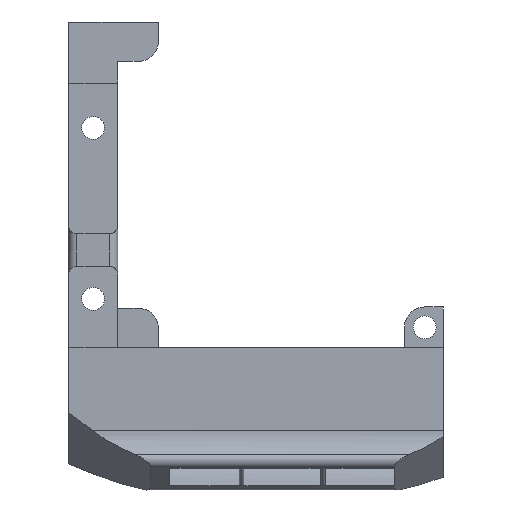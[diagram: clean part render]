
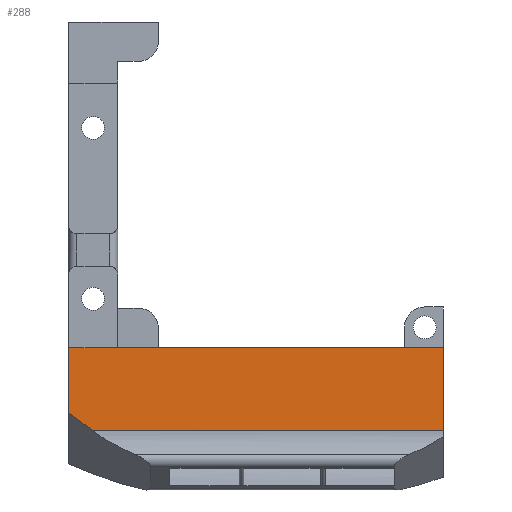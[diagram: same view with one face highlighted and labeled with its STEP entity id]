
A CAD part, left-side view. The second image highlights one B-rep face of the part: STEP entity #288.
In plain terms, the highlighted planar face has unit normal (-1, 0, 0).
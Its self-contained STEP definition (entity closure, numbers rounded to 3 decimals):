
#177=CARTESIAN_POINT('Vertex',(20.8,60.223,-35.015)) ;
#180=CARTESIAN_POINT('Line Origine',(20.8,60.223,-31.033)) ;
#184=CARTESIAN_POINT('Vertex',(20.8,60.223,-27.05)) ;
#242=CARTESIAN_POINT('Axis2P3D Location',(20.8,60.223,-27.05)) ;
#247=CARTESIAN_POINT('Line Origine',(20.8,35.724,-37.275)) ;
#251=CARTESIAN_POINT('Vertex',(20.8,57.224,-37.275)) ;
#253=CARTESIAN_POINT('Vertex',(20.8,14.223,-37.275)) ;
#256=CARTESIAN_POINT('Line Origine',(20.8,14.223,-32.163)) ;
#260=CARTESIAN_POINT('Vertex',(20.8,14.223,-27.05)) ;
#263=CARTESIAN_POINT('Line Origine',(20.8,34.223,-27.05)) ;
#267=CARTESIAN_POINT('Vertex',(20.8,54.223,-27.05)) ;
#270=CARTESIAN_POINT('Line Origine',(20.8,57.223,-27.05)) ;
#275=CARTESIAN_POINT('Line Origine',(20.8,58.724,-36.145)) ;
#181=DIRECTION('Vector Direction',(0.,0.,-1.)) ;
#243=DIRECTION('Axis2P3D Direction',(-1.,0.,0.)) ;
#244=DIRECTION('Axis2P3D XDirection',(-0.,0.,-1.)) ;
#248=DIRECTION('Vector Direction',(0.,-1.,0.)) ;
#257=DIRECTION('Vector Direction',(0.,0.,-1.)) ;
#264=DIRECTION('Vector Direction',(0.,-1.,0.)) ;
#271=DIRECTION('Vector Direction',(0.,-1.,0.)) ;
#276=DIRECTION('Vector Direction',(0.,-0.799,-0.602)) ;
#245=AXIS2_PLACEMENT_3D('Plane Axis2P3D',#242,#243,#244) ;
#281=ORIENTED_EDGE('',*,*,#255,.T.) ;
#282=ORIENTED_EDGE('',*,*,#262,.T.) ;
#283=ORIENTED_EDGE('',*,*,#269,.F.) ;
#284=ORIENTED_EDGE('',*,*,#274,.F.) ;
#285=ORIENTED_EDGE('',*,*,#186,.F.) ;
#286=ORIENTED_EDGE('',*,*,#279,.F.) ;
#182=VECTOR('Line Direction',#181,1.) ;
#249=VECTOR('Line Direction',#248,1.) ;
#258=VECTOR('Line Direction',#257,1.) ;
#265=VECTOR('Line Direction',#264,1.) ;
#272=VECTOR('Line Direction',#271,1.) ;
#277=VECTOR('Line Direction',#276,1.) ;
#288=ADVANCED_FACE('Corps principal',(#287),#246,.T.) ;
#186=EDGE_CURVE('',#178,#185,#183,.F.) ;
#255=EDGE_CURVE('',#252,#254,#250,.T.) ;
#262=EDGE_CURVE('',#254,#261,#259,.F.) ;
#269=EDGE_CURVE('',#268,#261,#266,.T.) ;
#274=EDGE_CURVE('',#185,#268,#273,.T.) ;
#279=EDGE_CURVE('',#252,#178,#278,.F.) ;
#280=EDGE_LOOP('',(#281,#282,#283,#284,#285,#286)) ;
#287=FACE_OUTER_BOUND('',#280,.T.) ;
#183=LINE('Line',#180,#182) ;
#250=LINE('Line',#247,#249) ;
#259=LINE('Line',#256,#258) ;
#266=LINE('Line',#263,#265) ;
#273=LINE('Line',#270,#272) ;
#278=LINE('Line',#275,#277) ;
#246=PLANE('',#245) ;
#178=VERTEX_POINT('',#177) ;
#185=VERTEX_POINT('',#184) ;
#252=VERTEX_POINT('',#251) ;
#254=VERTEX_POINT('',#253) ;
#261=VERTEX_POINT('',#260) ;
#268=VERTEX_POINT('',#267) ;
